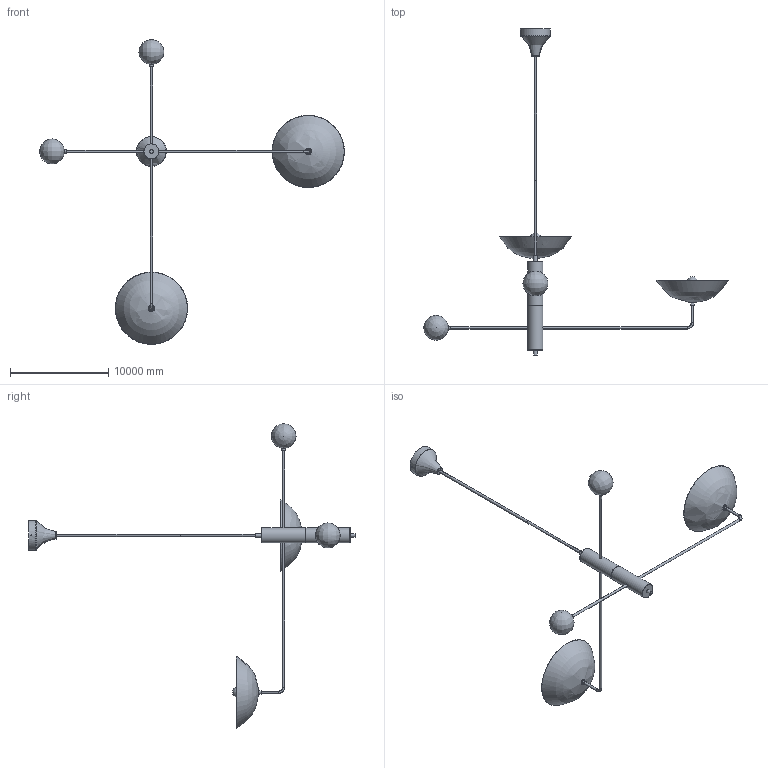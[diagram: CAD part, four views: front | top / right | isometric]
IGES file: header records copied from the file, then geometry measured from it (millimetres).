
Global section: file name: Regal Nauticaz Chandelier; native system: AutoCAD 2022 - 简体中文 (Simplified Chinese),62HAuto; preprocessor: desk Translation Framework DWG producer (atf_dwg_producer); organization: unknown; date: 20251212.114206; units: inch
Bounding box: 31054.31 x 33234.49 x 31054.31 mm (x, y, z)
Volume: 25504575470.9 mm3; surface area: 541247957.2 mm2
Topology: 28 solids, 30 shells, 120 faces, 222 edges, 157 vertices
Faces by surface type: bspline 120
